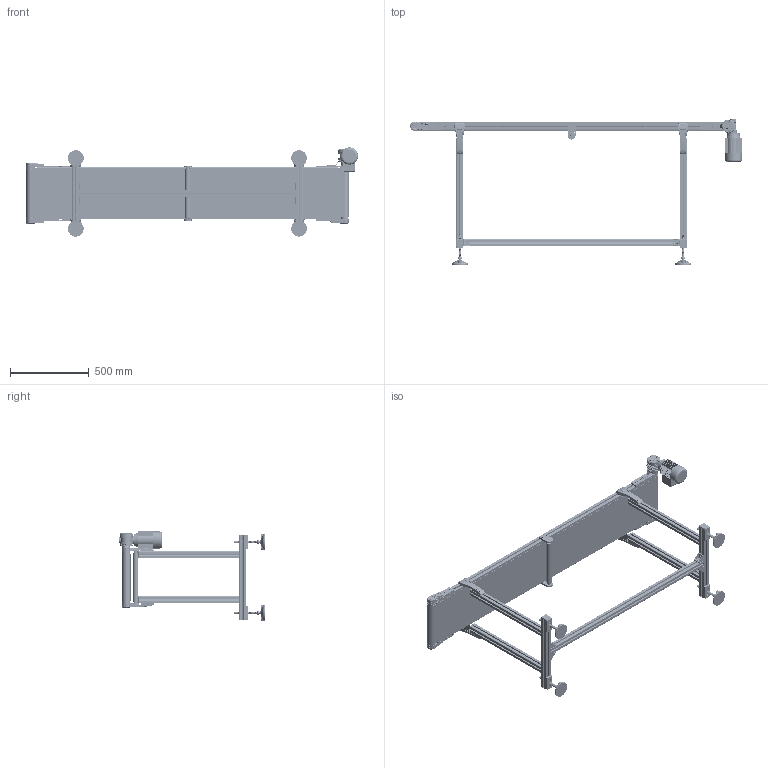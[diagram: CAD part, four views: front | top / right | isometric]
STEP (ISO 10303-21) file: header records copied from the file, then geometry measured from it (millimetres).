
FILE_DESCRIPTION (( 'STEP AP203' ), '1' );
FILE_NAME ('NASTRO_RETTILINEO_TAPPETO.step', '2026-04-30T07:30:11', ( 'Utente Windows' ), ( '' ), 'SwSTEP 2.0', 'SolidWorks 2024', '' );
FILE_SCHEMA (( 'CONFIG_CONTROL_DESIGN' ));
Length unit declared in the file: millimetre
Products named in the file (67): BLOCCO_PERNO_50_30; 084.808.012; 2010.000.068; 084.803.018; VITI TE UNI 5739_M6x16 UNI 5739; 084.302.000 DADI ALUSIC 13x13_084.302.004; 084.301.000 VITI ALUSIC1_084.301.003; BLOCCO_PERNO_50_RINVIO; 084.802.017_084.802.017; VITI TCEI UNI 5931_M4x25 UNI 5931; 084.802.013-2; VITI TSEI UNI 5933_M4x10 UNI 5933; RONDELLE FASCIA LARGA UNI 6593_5.4x20 UNI 6593; PIEDE; TELAIO_50_STANDARD_Default<A macchina>; FLANGIA_GAMBA_50; 2010.000.068_L; 084.302.000 DADI ALUSIC 13x13-1_084.302.007; RULLO_50_Default<A macchina>; 084.807.002_084.807.002; 084.201.012-1; 084.802.062; CH03P_DX; CHIAVETTE_A 5x5x20 UNI 6604-69; 2010.000.070; 084.303.001; 084.807.003_084.807.003<A macchina>; 084.802.065_Default<A macchina>; 084.810.001; 084.802.061; 2010.000.069; TRAVERSA_50_Default<A macchina>; BLOCCO_BRACCIO_CH03P_VF30P; 084.811.001; NASTRO_RETTILINEO_TAPPETO; TAPPETO_STANDARD; 084.802.028; 084.402.005; GAMBE_D50_Default<A macchina>; VITI TSEI UNI 5933_M4x12 UNI 5933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
Assembly tree (164 placements, depth 4):
  NASTRO_RETTILINEO_TAPPETO
    TAPPETO_STANDARD
    TELAIO_50_STANDARD_Default<A macchina>
    LAMIERA_STANDARD
    RULLO_50_Default<A macchina>  x2
    BLOCCO_PERNO_50_30
      084.810.001
      084.811.001
      RONDELLE FASCIA LARGA UNI 6593_5.4x20 UNI 6593
      084.301.000 VITI ALUSIC_084.301.009
      CHIAVETTE_A 5x5x40 UNI 6604-69
      CHIAVETTE_A 5x5x20 UNI 6604-69
      14UNI7435
    BLOCCO_TRAINO_50_STANDARD_30_DX
      084.807.003_084.807.003<A macchina>
      084.802.017_084.802.017
      084.301.000 VITI ALUSIC_084.301.003  x2
      084.302.000 DADI ALUSIC 13x13-1_084.302.004  x2
      BLOCCO_BRACCIO_CH03P_VF30P
        084.808.012
        084.802.062
        084.802.061
        VITI TE UNI 5739_M6x16 UNI 5739  x4
        084.803.018
        VITI TCEI UNI 5931_M6x12 UNI 5931  x4
      084.802.065_Default<A macchina>
      VITI TCEI UNI 5931_M4x25 UNI 5931  x2
    BLOCCO_PERNO_50_RINVIO  x3
      084.811.004
      084.810.001
    BLOCCO_TRAINO_50_STANDARD
      084.807.002_084.807.002
      084.802.017_084.802.017
      084.301.000 VITI ALUSIC_084.301.003  x2
      084.302.000 DADI ALUSIC 13x13-1_084.302.004  x2
      VITI TSEI UNI 5933_M4x12 UNI 5933  x4
      084.802.071
      VITI TSEI UNI 5933 INOX_0412UNI5933A2  x2
    BLOCCO_RINVIO_50_STANDARD  x2
      084.807.002_084.807.002
      084.802.017_084.802.017
      084.802.008
      084.301.000 VITI ALUSIC_084.301.003
      084.302.000 DADI ALUSIC 13x13_084.302.004
      VITI TSEI UNI 5933_M4x10 UNI 5933
      084.802.071
    GAMBE_D50_Default<A macchina>  x2
    FLANGIA_GAMBA_50
      084.302.000 DADI ALUSIC 13x13-1_084.302.004  x4
      RONDELLE UNI 6592_8.4x17 UNI 6592  x3
      084.301.000 VITI ALUSIC_084.301.003  x4
      2010.000.068
        2010.000.068_L
        2010.000.069
        2010.000.070
    FLANGIA_GAMBA_50  x3
      084.302.000 DADI ALUSIC 13x13-1_084.302.004
      RONDELLE UNI 6592_8.4x17 UNI 6592
      084.301.000 VITI ALUSIC_084.301.003
      2010.000.068
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Bounding box: 2112 x 928.1 x 567.94 mm (x, y, z)
Volume: 13790466.6 mm3; surface area: 11097101.3 mm2
Topology: 284 solids, 292 shells, 15707 faces, 41216 edges, 26343 vertices
Faces by surface type: plane 6729, cylinder 4898, bspline 1674, cone 1291, torus 997, sphere 118
Entity records: 254920 total; most frequent: CARTESIAN_POINT 86789, ORIENTED_EDGE 35022, DIRECTION 31057, EDGE_CURVE 17511, VERTEX_POINT 11287, AXIS2_PLACEMENT_3D 10658, LINE 9741, VECTOR 9741
